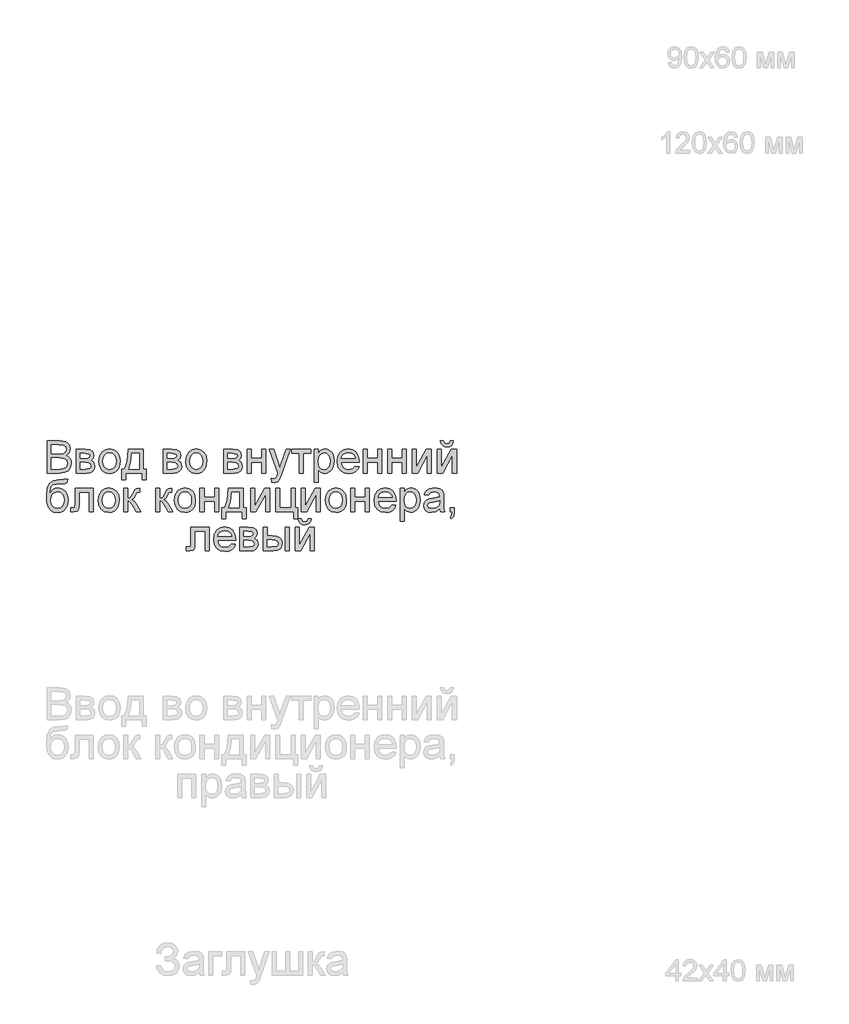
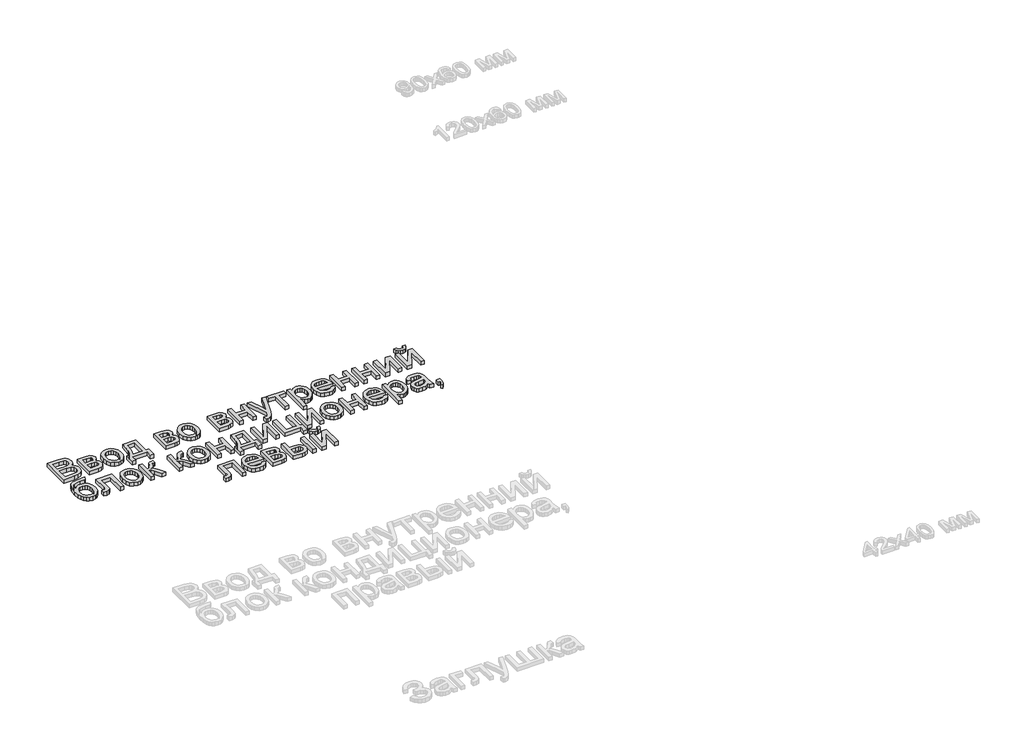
# One storey, part 18 of 21: 1 proxy.
"""IFC4 building model written with IfcOpenShell, lengths in millimetres."""

import ifcopenshell
import ifcopenshell.guid

model = None  # the IFC model being written
_history = None  # IfcOwnerHistory: only IFC2X3 demands one
_inside = {}  # id of a spatial element -> (the spatial element, [elements in it])
_under = {}  # id of a project, library or spatial element -> (it, [spatial elements below it])
_declared = {}  # id of a project -> (the project, [libraries it declares])
_typed = {}  # id of a type object -> (the type object, [elements of that type])
_made_of = {}  # id of a material, layer set ... -> (it, [elements and type objects made of it])


def new_model(schema):
    """Start an empty IFC model of exactly this schema.

    Asked for "IFC4X3", IfcOpenShell would pick the latest addendum, in which some entities
    have other attributes; the version numbers below select the first issue.
    IFC2X3 requires an IfcOwnerHistory on every rooted entity: one is made here for all.
    """
    global model, _history
    if schema == "IFC4X3":
        model = ifcopenshell.file(schema_version=(4, 3, 0, 0))
    else:
        model = ifcopenshell.file(schema=schema)
    _inside.clear()
    _under.clear()
    _declared.clear()
    _typed.clear()
    _made_of.clear()
    _history = None
    if model.schema == "IFC2X3":
        org = make("IfcOrganization", Name="unknown")
        user = make(
            "IfcPersonAndOrganization",
            ThePerson=make("IfcPerson", FamilyName="unknown"),
            TheOrganization=org,
        )
        app = make(
            "IfcApplication",
            ApplicationDeveloper=org,
            Version="unknown",
            ApplicationFullName="unknown",
            ApplicationIdentifier="unknown",
        )
        _history = make(
            "IfcOwnerHistory",
            OwningUser=user,
            OwningApplication=app,
            ChangeAction="ADDED",
            CreationDate=0,
        )
    return model


def make(cls, **values):
    """One entity of the class cls with the attributes given. An attribute that is None is left unset."""
    return model.create_entity(
        cls, **{name: value for name, value in values.items() if value is not None}
    )


def rooted(cls, **values):
    """An entity with a GlobalId (a new one), such as an element, a storey or a relation."""
    return make(cls, GlobalId=ifcopenshell.guid.new(), OwnerHistory=_history, **values)


def si_unit(unit_type, name, prefix=None):
    """IfcSIUnit, for example si_unit("LENGTHUNIT", "METRE", prefix="MILLI")."""
    return make("IfcSIUnit", UnitType=unit_type, Prefix=prefix, Name=name)


def assignment(units):
    """IfcUnitAssignment: the units of a project."""
    return None if units is None else make("IfcUnitAssignment", Units=units)


def point(xyz):
    """IfcCartesianPoint."""
    return None if xyz is None else make("IfcCartesianPoint", Coordinates=xyz)


def direction(xyz):
    """IfcDirection."""
    return None if xyz is None else make("IfcDirection", DirectionRatios=xyz)


def frame(location, z_axis=None, x_axis=None):
    """IfcAxis2Placement3D, a coordinate frame: its origin and axes. An axis left out is left unset."""
    return make(
        "IfcAxis2Placement3D",
        Location=point(location),
        Axis=direction(z_axis),
        RefDirection=direction(x_axis),
    )


def origin():
    """The frame at (0, 0, 0) with its axes left unset."""
    return frame((0.0, 0.0, 0.0))


def origin_with_axes():
    """The frame at (0, 0, 0) with the z axis (0, 0, 1) and the x axis (1, 0, 0) written out."""
    return frame((0.0, 0.0, 0.0), z_axis=(0.0, 0.0, 1.0), x_axis=(1.0, 0.0, 0.0))


def place(relative_to, where):
    """IfcLocalPlacement: puts the frame where relative to a parent placement (None: the world)."""
    return make(
        "IfcLocalPlacement", PlacementRelTo=relative_to, RelativePlacement=where
    )


def context(
    kind, dimensions, precision=None, world=None, true_north=None, identifier=None
):
    """IfcGeometricRepresentationContext, for example the 3D "Model" context."""
    return make(
        "IfcGeometricRepresentationContext",
        ContextIdentifier=identifier,
        ContextType=kind,
        CoordinateSpaceDimension=dimensions,
        Precision=precision,
        WorldCoordinateSystem=world,
        TrueNorth=true_north,
    )


def project(units=None, contexts=None):
    """IfcProject with its units and contexts."""
    return rooted(
        "IfcProject",
        Name="project",
        RepresentationContexts=contexts,
        UnitsInContext=assignment(units),
    )


def spatial(cls, under=None, at=None, **own):
    """A site, building, storey or space (cls), placed at a placement, below another one or the project."""
    s = rooted(cls, ObjectPlacement=at, **own)
    if under is not None:
        _under.setdefault(under.id(), (under, []))[1].append(s)
    return s


def polyline(points):
    """IfcPolyline through the points."""
    return make("IfcPolyline", Points=[point(p) for p in points])


def outline(outer, holes=None, kind="AREA"):
    """IfcArbitraryClosedProfileDef: a profile drawn as a closed curve; with holes, ...WithVoids."""
    if holes is None:
        return make("IfcArbitraryClosedProfileDef", ProfileType=kind, OuterCurve=outer)
    return make(
        "IfcArbitraryProfileDefWithVoids",
        ProfileType=kind,
        OuterCurve=outer,
        InnerCurves=holes,
    )


def extrude(swept, where, along, depth):
    """IfcExtrudedAreaSolid: the profile swept, set in the frame where, extruded along a direction by depth."""
    return make(
        "IfcExtrudedAreaSolid",
        SweptArea=swept,
        Position=where,
        ExtrudedDirection=direction(along),
        Depth=depth,
    )


def shape(context_of_items, identifier, shape_type, items):
    """IfcShapeRepresentation: the items that make up one representation, for example the "Body"."""
    return make(
        "IfcShapeRepresentation",
        ContextOfItems=context_of_items,
        RepresentationIdentifier=identifier,
        RepresentationType=shape_type,
        Items=items,
    )


def made_of(thing, what):
    """Note that an element or type object is made of a material, layer set ...; save() writes the relation."""
    if what is not None:
        _made_of.setdefault(what.id(), (what, []))[1].append(thing)
    return thing


def element(
    cls,
    number,
    at=None,
    inside=None,
    cuts=None,
    type_object=None,
    material=None,
    context=None,
    identifier="Body",
    shape_type=None,
    held_by="IfcProductDefinitionShape",
    body=None,
    shapes=None,
    **own,
):
    """One element of the class cls, such as IfcWall. Its Tag is "e" and its number.

    at: its placement. inside: the storey or other place that contains it. cuts: it is an
    opening in that element (IfcRelVoidsElement). A single representation is given by context,
    identifier, shape_type and body (its items); several are given by shapes. held_by: the class
    of the entity that holds the representations. save() writes the other relations.
    """
    e = rooted(cls, Tag="e%d" % number, ObjectPlacement=at, **own)
    if body is not None:
        shapes = [shape(context, identifier, shape_type, body)]
    if shapes is not None:
        e.Representation = make(held_by, Representations=shapes)
    if inside is not None:
        _inside.setdefault(inside.id(), (inside, []))[1].append(e)
    if cuts is not None:
        rooted(
            "IfcRelVoidsElement", RelatingBuildingElement=cuts, RelatedOpeningElement=e
        )
    if type_object is not None:
        _typed.setdefault(type_object.id(), (type_object, []))[1].append(e)
    return made_of(e, material)


def aggregate(whole, parts):
    """IfcRelAggregates: a whole, such as a stair, and the parts it consists of."""
    return rooted("IfcRelAggregates", RelatingObject=whole, RelatedObjects=parts)


def save(model, path):
    """Write the relations noted so far, then the file.

    IfcRelAggregates (storeys below a building ...), IfcRelContainedInSpatialStructure (elements
    in a storey), IfcRelDefinesByType, IfcRelAssociatesMaterial and IfcRelDeclares: one each for
    every whole, place, type object, material and project.
    """
    for whole, parts in _under.values():
        aggregate(whole, parts)
    for where, things in _inside.values():
        rooted(
            "IfcRelContainedInSpatialStructure",
            RelatedElements=things,
            RelatingStructure=where,
        )
    for kind, things in _typed.values():
        rooted("IfcRelDefinesByType", RelatedObjects=things, RelatingType=kind)
    for what, things in _made_of.values():
        rooted("IfcRelAssociatesMaterial", RelatedObjects=things, RelatingMaterial=what)
    for by, libraries in _declared.values():
        rooted("IfcRelDeclares", RelatingContext=by, RelatedDefinitions=libraries)
    model.write(path)


model = new_model("IFC4")

# Units and contexts
model_context = context("Model", 3, world=origin())
ifc_project = project(units=[si_unit("LENGTHUNIT", "METRE", prefix="MILLI")], contexts=[model_context])

# Site, building, storey
site = spatial("IfcSite", under=ifc_project)
building = spatial("IfcBuilding", under=site)
storey = spatial("IfcBuildingStorey", under=building, Name="Этаж 01", Elevation=0.0)

# Proxy
placement = place(None, origin())
element("IfcBuildingElementProxy", 1, Name="150 мм Arial", ObjectType="150 мм Arial", at=placement, inside=storey, context=model_context, shape_type="SweptSolid", body=[
    extrude(outline(polyline([(28914.2604069, -7684.8743856), (28914.2604069, -7534.1899203), (28971.7603627, -7534.1899203), (28999.9217294, -7538.6228984), (29009.3854938, -7544.2468944), (29016.5499956, -7552.2529263), (29022.5648662, -7571.5299428), (29017.5064888, -7589.1330963), (29002.2209919, -7602.4688186), (29012.8941683, -7608.0422309), (29020.7806386, -7616.5219108), (29025.6504765, -7627.3468386), (29027.2737558, -7639.9559939), (29022.8407777, -7660.2078978), (29011.8595002, -7674.628872), (28995.4703573, -7682.2808175), (28971.3189043, -7684.8743856), (28914.2604069, -7684.8743856)]), holes=[polyline([(28933.095965, -7595.4054843), (28967.4929316, -7595.4054843), (28987.5792885, -7593.7868035), (28999.664212, -7586.8154397), (29003.7293081, -7574.5465752), (28999.9401235, -7562.2593166), (28989.0876047, -7554.9936472), (28964.8809694, -7553.0254785), (28933.095965, -7553.0254785), (28933.095965, -7595.4054843)]), polyline([(28933.095965, -7666.0388274), (28971.7235745, -7666.0388274), (28985.7030903, -7665.3030634), (28997.5304965, -7661.2011792), (29005.366383, -7652.8318638), (29008.4381976, -7640.1399349), (29004.8329541, -7625.4982315), (28993.1527007, -7616.7610341), (28969.8841645, -7614.2410425), (28933.095965, -7614.2410425), (28933.095965, -7666.0388274)])]), origin_with_axes(), (0.0, 0.0, 1.0), 20.0),
    extrude(outline(polyline([(29050.8182035, -7574.2154814), (29092.3152925, -7574.2154814), (29115.0687939, -7576.7354731), (29127.8710874, -7585.9693111), (29133.2237704, -7602.0641484), (29129.9864088, -7615.1423534), (29120.237536, -7624.4681619), (29132.8926766, -7634.6768873), (29137.9326599, -7652.4271936), (29134.7412836, -7666.7837884), (29127.1537175, -7676.8913463), (29115.1423703, -7682.8786257), (29098.679651, -7684.8743856), (29050.8182035, -7684.8743856), (29050.8182035, -7574.2154814)]), holes=[polyline([(29069.6537616, -7616.5954872), (29088.2685906, -7616.5954872), (29103.6276639, -7615.6389941), (29111.0956684, -7611.8130213), (29114.3882122, -7604.8968398), (29112.9442754, -7599.2774423), (29108.6124649, -7595.6630017), (29088.8572018, -7593.0510396), (29069.6537616, -7593.0510396), (29069.6537616, -7616.5954872)]), polyline([(29069.6537616, -7666.0388274), (29092.7567509, -7666.0388274), (29113.247778, -7662.6359189), (29117.487618, -7657.9960073), (29119.0971018, -7650.8820892), (29115.8781343, -7641.813798), (29107.4904248, -7636.5346914), (29090.9173409, -7635.4310454), (29069.6537616, -7635.4310454), (29069.6537616, -7666.0388274)])]), origin_with_axes(), (0.0, 0.0, 1.0), 20.0),
    extrude(outline(polyline([(29156.7682181, -7629.5449335), (29160.8425112, -7602.8642918), (29173.0653905, -7584.1115071), (29188.1669464, -7574.9236542), (29206.2483464, -7571.8610366), (29226.0357992, -7575.5904404), (29241.8409295, -7586.7786515), (29252.2014062, -7604.5427534), (29255.6548984, -7627.9998291), (29254.1281881, -7647.0285253), (29249.5480573, -7661.5138789), (29242.0478631, -7672.3617992), (29231.7609628, -7680.4781957), (29219.542682, -7685.5411717), (29206.2483464, -7687.2288303), (29186.2217703, -7683.5132222), (29170.4350342, -7672.3663977), (29160.1849221, -7654.2298154), (29156.7682181, -7629.5449335)]), holes=[polyline([(29175.6037762, -7629.5081453), (29177.7834771, -7646.5548772), (29184.3225795, -7658.6995816), (29194.1634229, -7665.9698495), (29206.2483464, -7668.3932722), (29218.2780877, -7665.9560539), (29228.1005369, -7658.6443993), (29234.6396394, -7646.3387466), (29236.8193402, -7628.9195341), (29234.6258438, -7612.3694428), (29228.0453546, -7600.3902854), (29218.2091098, -7593.1200174), (29206.2483464, -7590.6965948), (29194.1634229, -7593.1108204), (29184.3225795, -7600.3534972), (29177.7834771, -7612.4706104), (29175.6037762, -7629.5081453)])]), origin_with_axes(), (0.0, 0.0, 1.0), 20.0),
    extrude(outline(polyline([(29293.3260147, -7574.2154814), (29363.9593578, -7574.2154814), (29363.9593578, -7666.0388274), (29378.0860264, -7666.0388274), (29378.0860264, -7715.4821675), (29359.2504682, -7715.4821675), (29359.2504682, -7684.8743856), (29281.5537908, -7684.8743856), (29281.5537908, -7715.4821675), (29262.7182327, -7715.4821675), (29262.7182327, -7666.0388274), (29274.4904565, -7666.0388274), (29283.0483114, -7650.573988), (29289.0401894, -7630.1151506), (29293.3260147, -7574.2154814)]), holes=[polyline([(29309.8071281, -7593.0510396), (29305.3925441, -7635.9644743), (29295.6804595, -7666.0388274), (29345.1237996, -7666.0388274), (29345.1237996, -7593.0510396), (29309.8071281, -7593.0510396)])]), origin_with_axes(), (0.0, 0.0, 1.0), 20.0),
    extrude(outline(polyline([(29458.1371485, -7574.2154814), (29499.6342376, -7574.2154814), (29522.387739, -7576.7354731), (29535.1900324, -7585.9693111), (29540.5427154, -7602.0641484), (29537.3053539, -7615.1423534), (29527.556481, -7624.4681619), (29540.2116217, -7634.6768873), (29545.251605, -7652.4271936), (29542.0602287, -7666.7837884), (29534.4726625, -7676.8913463), (29522.4613154, -7682.8786257), (29505.9985961, -7684.8743856), (29458.1371485, -7684.8743856), (29458.1371485, -7574.2154814)]), holes=[polyline([(29476.9727067, -7616.5954872), (29495.5875356, -7616.5954872), (29510.9466089, -7615.6389941), (29518.4146134, -7611.8130213), (29521.7071573, -7604.8968398), (29520.2632205, -7599.2774423), (29515.93141, -7595.6630017), (29496.1761468, -7593.0510396), (29476.9727067, -7593.0510396), (29476.9727067, -7616.5954872)]), polyline([(29476.9727067, -7666.0388274), (29500.075696, -7666.0388274), (29520.5667231, -7662.6359189), (29524.8065631, -7657.9960073), (29526.4160468, -7650.8820892), (29523.1970794, -7641.813798), (29514.8093699, -7636.5346914), (29498.236286, -7635.4310454), (29476.9727067, -7635.4310454), (29476.9727067, -7666.0388274)])]), origin_with_axes(), (0.0, 0.0, 1.0), 20.0),
    extrude(outline(polyline([(29564.0871631, -7629.5449335), (29568.1614562, -7602.8642918), (29580.3843355, -7584.1115071), (29595.4858914, -7574.9236542), (29613.5672915, -7571.8610366), (29633.3547443, -7575.5904404), (29649.1598745, -7586.7786515), (29659.5203512, -7604.5427534), (29662.9738434, -7627.9998291), (29661.4471332, -7647.0285253), (29656.8670023, -7661.5138789), (29649.3668081, -7672.3617992), (29639.0799079, -7680.4781957), (29626.8616271, -7685.5411717), (29613.5672915, -7687.2288303), (29593.5407154, -7683.5132222), (29577.7539793, -7672.3663977), (29567.5038672, -7654.2298154), (29564.0871631, -7629.5449335)]), holes=[polyline([(29582.9227213, -7629.5081453), (29585.1024221, -7646.5548772), (29591.6415246, -7658.6995816), (29601.4823679, -7665.9698495), (29613.5672915, -7668.3932722), (29625.5970327, -7665.9560539), (29635.419482, -7658.6443993), (29641.9585845, -7646.3387466), (29644.1382853, -7628.9195341), (29641.9447889, -7612.3694428), (29635.3642997, -7600.3902854), (29625.5280549, -7593.1200174), (29613.5672915, -7590.6965948), (29601.4823679, -7593.1108204), (29591.6415246, -7600.3534972), (29585.1024221, -7612.4706104), (29582.9227213, -7629.5081453)])]), origin_with_axes(), (0.0, 0.0, 1.0), 20.0),
    extrude(outline(polyline([(29743.0249656, -7574.2154814), (29784.5220546, -7574.2154814), (29807.275556, -7576.7354731), (29820.0778495, -7585.9693111), (29825.4305325, -7602.0641484), (29822.193171, -7615.1423534), (29812.4442981, -7624.4681619), (29825.0994387, -7634.6768873), (29830.139422, -7652.4271936), (29826.9480457, -7666.7837884), (29819.3604796, -7676.8913463), (29807.3491324, -7682.8786257), (29790.8864132, -7684.8743856), (29743.0249656, -7684.8743856), (29743.0249656, -7574.2154814)]), holes=[polyline([(29761.8605237, -7616.5954872), (29780.4753527, -7616.5954872), (29795.834426, -7615.6389941), (29803.3024305, -7611.8130213), (29806.5949744, -7604.8968398), (29805.1510375, -7599.2774423), (29800.819227, -7595.6630017), (29781.0639639, -7593.0510396), (29761.8605237, -7593.0510396), (29761.8605237, -7616.5954872)]), polyline([(29761.8605237, -7666.0388274), (29784.963513, -7666.0388274), (29805.4545402, -7662.6359189), (29809.6943802, -7657.9960073), (29811.3038639, -7650.8820892), (29808.0848964, -7641.813798), (29799.6971869, -7636.5346914), (29783.1241031, -7635.4310454), (29761.8605237, -7635.4310454), (29761.8605237, -7666.0388274)])]), origin_with_axes(), (0.0, 0.0, 1.0), 20.0),
    extrude(outline(polyline([(29853.6838697, -7574.2154814), (29872.5194279, -7574.2154814), (29872.5194279, -7616.5954872), (29921.962768, -7616.5954872), (29921.962768, -7574.2154814), (29940.7983262, -7574.2154814), (29940.7983262, -7684.8743856), (29921.962768, -7684.8743856), (29921.962768, -7635.4310454), (29872.5194279, -7635.4310454), (29872.5194279, -7684.8743856), (29853.6838697, -7684.8743856), (29853.6838697, -7574.2154814)])), origin_with_axes(), (0.0, 0.0, 1.0), 20.0),
    extrude(outline(polyline([(29969.0516634, -7727.2543914), (29966.6972187, -7709.117809), (29976.2621505, -7710.773278), (29985.201683, -7708.6947447), (29990.6831247, -7702.9006033), (29995.8334727, -7689.0314521), (29997.3050007, -7684.4697154), (29957.2794396, -7574.2154814), (29977.1450673, -7574.2154814), (29998.3718584, -7635.6517746), (30005.7662865, -7660.2262919), (30013.1607146, -7638.5212542), (30034.976117, -7574.2154814), (30054.6945919, -7574.2154814), (30016.177347, -7687.5231359), (30006.1709567, -7712.0976532), (29995.2448615, -7725.3781932), (29980.5663699, -7729.6088362), (29969.0516634, -7727.2543914)])), origin_with_axes(), (0.0, 0.0, 1.0), 20.0),
    extrude(outline(polyline([(30060.8750094, -7574.2154814), (30150.3439107, -7574.2154814), (30150.3439107, -7593.0510396), (30115.0272391, -7593.0510396), (30115.0272391, -7684.8743856), (30096.191681, -7684.8743856), (30096.191681, -7593.0510396), (30060.8750094, -7593.0510396), (30060.8750094, -7574.2154814)])), origin_with_axes(), (0.0, 0.0, 1.0), 20.0),
    extrude(outline(polyline([(30166.825024, -7727.2543914), (30166.825024, -7574.2154814), (30185.6605822, -7574.2154814), (30185.6605822, -7592.6831576), (30198.6836048, -7577.0665669), (30216.2683642, -7571.8610366), (30229.0062783, -7573.6820525), (30240.1439057, -7579.1451001), (30249.2121969, -7587.9190857), (30255.7421023, -7599.6729155), (30261.0028148, -7628.6988049), (30259.5174912, -7644.8074378), (30255.0615206, -7659.2146164), (30247.7774571, -7671.1891753), (30237.807855, -7679.9999491), (30226.1965795, -7685.42161), (30213.9874958, -7687.2288303), (30197.5983529, -7682.3911821), (30185.6605822, -7670.1591057), (30185.6605822, -7727.2543914), (30166.825024, -7727.2543914)]), holes=[polyline([(30185.6605822, -7630.4278503), (30187.6977287, -7647.3136338), (30193.8091684, -7659.1226459), (30202.8268758, -7666.0756156), (30213.5828256, -7668.3932722), (30224.5135194, -7665.9928421), (30233.7611531, -7658.7915521), (30240.0657307, -7646.5502787), (30242.1672566, -7629.0298987), (30240.1163145, -7612.2360856), (30233.9634882, -7600.2615267), (30224.9595763, -7593.0878278), (30214.3553778, -7590.6965948), (30203.7097926, -7593.2395791), (30194.3609914, -7600.868532), (30187.8356845, -7613.3443301), (30185.6605822, -7630.4278503)])]), origin_with_axes(), (0.0, 0.0, 1.0), 20.0),
    extrude(outline(polyline([(30359.6687659, -7651.9121588), (30378.1364421, -7654.2666036), (30371.4823765, -7668.18174), (30360.8643824, -7678.5836034), (30346.5215831, -7685.0675236), (30328.6931019, -7687.2288303), (30306.5925911, -7683.4994266), (30289.5872458, -7672.3112154), (30278.743924, -7654.3907637), (30275.1294834, -7630.4646385), (30278.7807122, -7605.7337713), (30289.7343986, -7587.238504), (30306.5098176, -7575.7054035), (30327.6262441, -7571.8610366), (30348.0850816, -7575.6962064), (30364.4328377, -7587.2017158), (30375.1519994, -7605.6601949), (30378.7250533, -7630.3542739), (30378.6146887, -7635.4310454), (30293.9650416, -7635.4310454), (30297.2253958, -7649.5301229), (30304.7991663, -7659.8951981), (30315.7298601, -7666.2687536), (30329.0609839, -7668.3932722), (30347.5286601, -7664.4569348), (30359.6687659, -7651.9121588)]), holes=[polyline([(30293.9650416, -7616.5954872), (30359.8894951, -7616.5954872), (30357.3419123, -7606.6442793), (30352.3479142, -7599.5257627), (30341.3666366, -7592.9038868), (30327.5526677, -7590.6965948), (30314.8561404, -7592.4578298), (30304.3577079, -7597.741535), (30297.0598489, -7605.9774932), (30293.9650416, -7616.5954872)])]), origin_with_axes(), (0.0, 0.0, 1.0), 20.0),
    extrude(outline(polyline([(30397.5606114, -7574.2154814), (30416.3961696, -7574.2154814), (30416.3961696, -7616.5954872), (30465.8395097, -7616.5954872), (30465.8395097, -7574.2154814), (30484.6750679, -7574.2154814), (30484.6750679, -7684.8743856), (30465.8395097, -7684.8743856), (30465.8395097, -7635.4310454), (30416.3961696, -7635.4310454), (30416.3961696, -7684.8743856), (30397.5606114, -7684.8743856), (30397.5606114, -7574.2154814)])), origin_with_axes(), (0.0, 0.0, 1.0), 20.0),
    extrude(outline(polyline([(30512.9284051, -7574.2154814), (30531.7639633, -7574.2154814), (30531.7639633, -7616.5954872), (30581.2073034, -7616.5954872), (30581.2073034, -7574.2154814), (30600.0428616, -7574.2154814), (30600.0428616, -7684.8743856), (30581.2073034, -7684.8743856), (30581.2073034, -7635.4310454), (30531.7639633, -7635.4310454), (30531.7639633, -7684.8743856), (30512.9284051, -7684.8743856), (30512.9284051, -7574.2154814)])), origin_with_axes(), (0.0, 0.0, 1.0), 20.0),
    extrude(outline(polyline([(30628.2961988, -7574.2154814), (30647.1317569, -7574.2154814), (30647.1317569, -7658.6076111), (30693.4113119, -7574.2154814), (30717.7651, -7574.2154814), (30717.7651, -7684.8743856), (30698.9295419, -7684.8743856), (30698.9295419, -7600.9972906), (30652.9442925, -7684.8743856), (30628.2961988, -7684.8743856), (30628.2961988, -7574.2154814)])), origin_with_axes(), (0.0, 0.0, 1.0), 20.0),
    extrude(outline(polyline([(30746.0184372, -7574.2154814), (30764.8539954, -7574.2154814), (30764.8539954, -7658.6076111), (30811.1335504, -7574.2154814), (30835.4873385, -7574.2154814), (30835.4873385, -7684.8743856), (30816.6517803, -7684.8743856), (30816.6517803, -7600.9972906), (30770.6665309, -7684.8743856), (30746.0184372, -7684.8743856), (30746.0184372, -7574.2154814)])), origin_with_axes(), (0.0, 0.0, 1.0), 20.0),
    extrude(outline(polyline([(30807.2340012, -7534.1899203), (30821.3606699, -7534.1899203), (30818.3210449, -7546.2518512), (30812.2188023, -7555.1408), (30803.3298536, -7560.6176432), (30791.9301102, -7562.4432576), (30779.5600782, -7560.6314387), (30769.9675551, -7555.1959823), (30763.4100586, -7546.3208291), (30760.1451059, -7534.1899203), (30774.2717745, -7534.1899203), (30779.5692752, -7544.8033159), (30790.2378531, -7548.3165889), (30801.9365005, -7544.9136805), (30807.2340012, -7534.1899203)])), origin_with_axes(), (0.0, 0.0, 1.0), 20.0),
    extrude(outline(polyline([(28993.1343066, -7714.7977023), (29009.61542, -7714.7977023), (29004.7593777, -7729.494588), (28995.1576576, -7734.8104829), (28972.0914565, -7735.9877052), (28941.023822, -7740.3287128), (28933.8961083, -7745.9757014), (28929.1044454, -7754.2346522), (28925.0761375, -7778.8459577), (28941.391704, -7760.8197399), (28951.3107223, -7756.3223825), (28962.41616, -7754.8232634), (28982.0150733, -7758.6354406), (28997.9167726, -7770.0719721), (29008.4565917, -7788.0108179), (29011.9698648, -7811.3299379), (29010.2270238, -7829.3101704), (29004.998501, -7843.7403416), (28988.4622053, -7863.2932697), (28977.168228, -7868.4666102), (28962.41616, -7870.1910571), (28945.4154133, -7867.9699695), (28932.6729007, -7861.3067069), (28923.2965084, -7851.180755), (28916.3941224, -7838.5715996), (28912.1450854, -7819.5842901), (28910.7287397, -7790.3238759), (28914.3017936, -7754.1840684), (28925.0209552, -7732.1433384), (28943.1529391, -7720.8999449), (28968.9644595, -7717.1521471), (28989.9337333, -7716.7290828), (28993.1343066, -7714.7977023)]), holes=[polyline([(28993.1343066, -7810.7413267), (28991.0925615, -7795.9202808), (28984.9673263, -7784.0514879), (28975.126483, -7776.2569881), (28961.9379134, -7773.6588216), (28948.1883239, -7776.4041409), (28937.9887955, -7784.6400991), (28931.6704223, -7797.4653852), (28929.5642979, -7813.9786882), (28931.8911515, -7829.9861535), (28938.8717123, -7841.7353848), (28949.2643787, -7848.9504704), (28961.8275488, -7851.3554989), (28974.4550983, -7848.5733913), (28984.4522915, -7840.2270686), (28990.9638029, -7827.2914179), (28993.1343066, -7810.7413267)])]), origin_with_axes(), (0.0, 0.0, 1.0), 20.0),
    extrude(outline(polyline([(29044.9320915, -7757.1777082), (29129.6921032, -7757.1777082), (29129.6921032, -7867.7262477), (29110.8565451, -7867.7262477), (29110.8565451, -7776.0132663), (29063.7676497, -7776.0132663), (29063.7676497, -7828.8043326), (29062.4984568, -7853.1581207), (29055.527093, -7863.4404225), (29039.0459796, -7867.8366123), (29023.7420886, -7866.8801191), (29023.7420886, -7849.0010542), (29032.1665863, -7849.0010542), (29040.6830545, -7847.8422259), (29044.085963, -7844.1634059), (29044.9320915, -7827.7374748), (29044.9320915, -7757.1777082)])), origin_with_axes(), (0.0, 0.0, 1.0), 20.0),
    extrude(outline(polyline([(29153.2365509, -7812.5071602), (29157.310844, -7785.8265185), (29169.5337233, -7767.0737338), (29184.6352792, -7757.885881), (29202.7166793, -7754.8232634), (29222.5041321, -7758.5526671), (29238.3092623, -7769.7408783), (29248.669739, -7787.5049801), (29252.1232312, -7810.9620559), (29250.5965209, -7829.9907521), (29246.0163901, -7844.4761056), (29238.5161959, -7855.324026), (29228.2292956, -7863.4404225), (29216.0110149, -7868.5033984), (29202.7166793, -7870.1910571), (29182.6901032, -7866.4754489), (29166.903367, -7855.3286245), (29156.653255, -7837.1920421), (29153.2365509, -7812.5071602)]), holes=[polyline([(29172.0721091, -7812.470372), (29174.2518099, -7829.517104), (29180.7909124, -7841.6618084), (29190.6317557, -7848.9320763), (29202.7166793, -7851.3554989), (29214.7464205, -7848.9182807), (29224.5688698, -7841.6066261), (29231.1079723, -7829.3009733), (29233.2876731, -7811.8817609), (29231.0941767, -7795.3316696), (29224.5136875, -7783.3525121), (29214.6774426, -7776.0822442), (29202.7166793, -7773.6588216), (29190.6317557, -7776.0730471), (29180.7909124, -7783.3157239), (29174.2518099, -7795.4328371), (29172.0721091, -7812.470372)])]), origin_with_axes(), (0.0, 0.0, 1.0), 20.0),
    extrude(outline(polyline([(29273.3132341, -7757.1777082), (29292.1487923, -7757.1777082), (29292.1487923, -7804.2666036), (29304.7671447, -7800.8820892), (29315.1046288, -7781.1636143), (29323.6946734, -7764.149072), (29331.2730425, -7758.6124479), (29345.0502232, -7757.1777082), (29348.6554668, -7757.1777082), (29348.6554668, -7776.1236309), (29343.5786952, -7776.0132663), (29334.3816453, -7777.9998291), (29327.9069222, -7790.3974523), (29320.310159, -7803.8067511), (29309.6599753, -7810.3734447), (29321.5425637, -7817.7034934), (29333.204423, -7833.1453402), (29353.3643563, -7867.8366123), (29331.9536242, -7867.8366123), (29312.198361, -7833.8811042), (29302.2655472, -7819.5153123), (29292.1487923, -7816.0388274), (29292.1487923, -7867.8366123), (29273.3132341, -7867.8366123), (29273.3132341, -7757.1777082)])), origin_with_axes(), (0.0, 0.0, 1.0), 20.0),
    extrude(outline(polyline([(29423.9976994, -7757.1777082), (29442.8332575, -7757.1777082), (29442.8332575, -7804.2666036), (29455.45161, -7800.8820892), (29465.789094, -7781.1636143), (29474.3791386, -7764.149072), (29481.9575077, -7758.6124479), (29495.7346884, -7757.1777082), (29499.339932, -7757.1777082), (29499.339932, -7776.1236309), (29494.2631605, -7776.0132663), (29485.0661106, -7777.9998291), (29478.5913875, -7790.3974523), (29470.9946243, -7803.8067511), (29460.3444405, -7810.3734447), (29472.2270289, -7817.7034934), (29483.8888882, -7833.1453402), (29504.0488215, -7867.8366123), (29482.6380894, -7867.8366123), (29462.8828263, -7833.8811042), (29452.9500124, -7819.5153123), (29442.8332575, -7816.0388274), (29442.8332575, -7867.8366123), (29423.9976994, -7867.8366123), (29423.9976994, -7757.1777082)])), origin_with_axes(), (0.0, 0.0, 1.0), 20.0),
    extrude(outline(polyline([(29511.1121558, -7812.5071602), (29515.1864489, -7785.8265185), (29527.4093282, -7767.0737338), (29542.5108841, -7757.885881), (29560.5922842, -7754.8232634), (29580.379737, -7758.5526671), (29596.1848672, -7769.7408783), (29606.5453439, -7787.5049801), (29609.9988361, -7810.9620559), (29608.4721259, -7829.9907521), (29603.891995, -7844.4761056), (29596.3918008, -7855.324026), (29586.1049005, -7863.4404225), (29573.8866198, -7868.5033984), (29560.5922842, -7870.1910571), (29540.5657081, -7866.4754489), (29524.778972, -7855.3286245), (29514.5288599, -7837.1920421), (29511.1121558, -7812.5071602)]), holes=[polyline([(29529.947714, -7812.470372), (29532.1274148, -7829.517104), (29538.6665173, -7841.6618084), (29548.5073606, -7848.9320763), (29560.5922842, -7851.3554989), (29572.6220254, -7848.9182807), (29582.4444747, -7841.6066261), (29588.9835772, -7829.3009733), (29591.163278, -7811.8817609), (29588.9697816, -7795.3316696), (29582.3892924, -7783.3525121), (29572.5530476, -7776.0822442), (29560.5922842, -7773.6588216), (29548.5073606, -7776.0730471), (29538.6665173, -7783.3157239), (29532.1274148, -7795.4328371), (29529.947714, -7812.470372)])]), origin_with_axes(), (0.0, 0.0, 1.0), 20.0),
    extrude(outline(polyline([(29631.1888391, -7757.1777082), (29650.0243972, -7757.1777082), (29650.0243972, -7799.557714), (29699.4677374, -7799.557714), (29699.4677374, -7757.1777082), (29718.3032955, -7757.1777082), (29718.3032955, -7867.8366123), (29699.4677374, -7867.8366123), (29699.4677374, -7818.3932722), (29650.0243972, -7818.3932722), (29650.0243972, -7867.8366123), (29631.1888391, -7867.8366123), (29631.1888391, -7757.1777082)])), origin_with_axes(), (0.0, 0.0, 1.0), 20.0),
    extrude(outline(polyline([(29763.0377461, -7757.1777082), (29833.6710892, -7757.1777082), (29833.6710892, -7849.0010542), (29847.7977578, -7849.0010542), (29847.7977578, -7898.4443943), (29828.9621997, -7898.4443943), (29828.9621997, -7867.8366123), (29751.2655223, -7867.8366123), (29751.2655223, -7898.4443943), (29732.4299641, -7898.4443943), (29732.4299641, -7849.0010542), (29744.202188, -7849.0010542), (29752.7600429, -7833.5362148), (29758.7519209, -7813.0773773), (29763.0377461, -7757.1777082)]), holes=[polyline([(29779.5188595, -7776.0132663), (29775.1042756, -7818.9267011), (29765.3921909, -7849.0010542), (29814.8355311, -7849.0010542), (29814.8355311, -7776.0132663), (29779.5188595, -7776.0132663)])]), origin_with_axes(), (0.0, 0.0, 1.0), 20.0),
    extrude(outline(polyline([(29868.9877607, -7757.1777082), (29887.8233189, -7757.1777082), (29887.8233189, -7841.5698379), (29934.1028739, -7757.1777082), (29958.456662, -7757.1777082), (29958.456662, -7867.8366123), (29939.6211038, -7867.8366123), (29939.6211038, -7783.9595174), (29893.6358544, -7867.8366123), (29868.9877607, -7867.8366123), (29868.9877607, -7757.1777082)])), origin_with_axes(), (0.0, 0.0, 1.0), 20.0),
    extrude(outline(polyline([(29986.7099992, -7757.1777082), (30005.5455573, -7757.1777082), (30005.5455573, -7849.0010542), (30059.697787, -7849.0010542), (30059.697787, -7757.1777082), (30078.5333452, -7757.1777082), (30078.5333452, -7849.0010542), (30090.305569, -7849.0010542), (30090.305569, -7898.4443943), (30071.4700109, -7898.4443943), (30071.4700109, -7867.8366123), (29986.7099992, -7867.8366123), (29986.7099992, -7757.1777082)])), origin_with_axes(), (0.0, 0.0, 1.0), 20.0),
    extrude(outline(polyline([(30106.7866824, -7757.1777082), (30125.6222406, -7757.1777082), (30125.6222406, -7841.5698379), (30171.9017956, -7757.1777082), (30196.2555836, -7757.1777082), (30196.2555836, -7867.8366123), (30177.4200255, -7867.8366123), (30177.4200255, -7783.9595174), (30131.4347761, -7867.8366123), (30106.7866824, -7867.8366123), (30106.7866824, -7757.1777082)])), origin_with_axes(), (0.0, 0.0, 1.0), 20.0),
    extrude(outline(polyline([(30219.8000313, -7812.5071602), (30223.8743244, -7785.8265185), (30236.0972037, -7767.0737338), (30251.1987596, -7757.885881), (30269.2801597, -7754.8232634), (30289.0676125, -7758.5526671), (30304.8727427, -7769.7408783), (30315.2332194, -7787.5049801), (30318.6867116, -7810.9620559), (30317.1600014, -7829.9907521), (30312.5798705, -7844.4761056), (30305.0796763, -7855.324026), (30294.7927761, -7863.4404225), (30282.5744953, -7868.5033984), (30269.2801597, -7870.1910571), (30249.2535836, -7866.4754489), (30233.4668475, -7855.3286245), (30223.2167354, -7837.1920421), (30219.8000313, -7812.5071602)]), holes=[polyline([(30238.6355895, -7812.470372), (30240.8152903, -7829.517104), (30247.3543928, -7841.6618084), (30257.1952362, -7848.9320763), (30269.2801597, -7851.3554989), (30281.3099009, -7848.9182807), (30291.1323502, -7841.6066261), (30297.6714527, -7829.3009733), (30299.8511535, -7811.8817609), (30297.6576571, -7795.3316696), (30291.0771679, -7783.3525121), (30281.2409231, -7776.0822442), (30269.2801597, -7773.6588216), (30257.1952362, -7776.0730471), (30247.3543928, -7783.3157239), (30240.8152903, -7795.4328371), (30238.6355895, -7812.470372)])]), origin_with_axes(), (0.0, 0.0, 1.0), 20.0),
    extrude(outline(polyline([(30339.8767146, -7757.1777082), (30358.7122727, -7757.1777082), (30358.7122727, -7799.557714), (30408.1556129, -7799.557714), (30408.1556129, -7757.1777082), (30426.991171, -7757.1777082), (30426.991171, -7867.8366123), (30408.1556129, -7867.8366123), (30408.1556129, -7818.3932722), (30358.7122727, -7818.3932722), (30358.7122727, -7867.8366123), (30339.8767146, -7867.8366123), (30339.8767146, -7757.1777082)])), origin_with_axes(), (0.0, 0.0, 1.0), 20.0),
    extrude(outline(polyline([(30532.7204564, -7834.8743856), (30551.1881326, -7837.2288303), (30544.534067, -7851.1439668), (30533.9160729, -7861.5458302), (30519.5732736, -7868.0297504), (30501.7447924, -7870.1910571), (30479.6442816, -7866.4616534), (30462.6389364, -7855.2734422), (30451.7956145, -7837.3529905), (30448.1811739, -7813.4268652), (30451.8324027, -7788.6959981), (30462.7860892, -7770.2007308), (30479.5615081, -7758.6676302), (30500.6779347, -7754.8232634), (30521.1367721, -7758.6584332), (30537.4845283, -7770.1639426), (30548.2036899, -7788.6224217), (30551.7767438, -7813.3165006), (30551.6663792, -7818.3932722), (30467.0167321, -7818.3932722), (30470.2770863, -7832.4923496), (30477.8508569, -7842.8574248), (30488.7815506, -7849.2309804), (30502.1126744, -7851.3554989), (30520.5803506, -7847.4191616), (30532.7204564, -7834.8743856)]), holes=[polyline([(30467.0167321, -7799.557714), (30532.9411856, -7799.557714), (30530.3936028, -7789.606506), (30525.3996047, -7782.4879894), (30514.4183272, -7775.8661135), (30500.6043583, -7773.6588216), (30487.9078309, -7775.4200566), (30477.4093985, -7780.7037618), (30470.1115394, -7788.9397199), (30467.0167321, -7799.557714)])]), origin_with_axes(), (0.0, 0.0, 1.0), 20.0),
    extrude(outline(polyline([(30570.6123019, -7910.2166182), (30570.6123019, -7757.1777082), (30589.4478601, -7757.1777082), (30589.4478601, -7775.6453843), (30602.4708827, -7760.0287936), (30620.0556421, -7754.8232634), (30632.7935562, -7756.6442793), (30643.9311836, -7762.1073269), (30652.9994748, -7770.8813125), (30659.5293802, -7782.6351422), (30664.7900927, -7811.6610317), (30663.3047692, -7827.7696645), (30658.8487985, -7842.1768432), (30651.564735, -7854.1514021), (30641.5951329, -7862.9621759), (30629.9838574, -7868.3838368), (30617.7747737, -7870.1910571), (30601.3856308, -7865.3534089), (30589.4478601, -7853.1213325), (30589.4478601, -7910.2166182), (30570.6123019, -7910.2166182)]), holes=[polyline([(30589.4478601, -7813.390077), (30591.4850066, -7830.2758606), (30597.5964463, -7842.0848727), (30606.6141537, -7849.0378424), (30617.3701035, -7851.3554989), (30628.3007973, -7848.9550689), (30637.548431, -7841.7537789), (30643.8530087, -7829.5125055), (30645.9545346, -7811.9921255), (30643.9035924, -7795.1983124), (30637.7507661, -7783.2237534), (30628.7468542, -7776.0500545), (30618.1426557, -7773.6588216), (30607.4970705, -7776.2018058), (30598.1482693, -7783.8307587), (30591.6229624, -7796.3065569), (30589.4478601, -7813.390077)])]), origin_with_axes(), (0.0, 0.0, 1.0), 20.0),
    extrude(outline(polyline([(30756.6134387, -7853.7099437), (30738.3480976, -7866.4754489), (30718.1697702, -7870.1910571), (30702.4290193, -7867.956174), (30690.8177439, -7861.2515246), (30683.6578405, -7851.0703904), (30681.2712061, -7838.4060527), (30684.8764496, -7823.5068319), (30694.349411, -7812.6911012), (30707.5379805, -7806.5106837), (30723.8351529, -7803.6779924), (30756.5030741, -7797.2032692), (30756.6134387, -7793.0094145), (30755.3166547, -7784.6033109), (30751.4263026, -7779.1034751), (30742.7258934, -7775.0199849), (30730.6041816, -7773.6588216), (30711.5478943, -7777.2824592), (30702.461209, -7790.1399349), (30683.6256509, -7787.7854902), (30691.7742371, -7769.3913904), (30708.181774, -7758.6124479), (30733.0322028, -7754.8232634), (30755.8592806, -7758.1709896), (30768.7535445, -7766.5770931), (30774.5292919, -7779.3609925), (30775.4489969, -7795.8421059), (30775.4489969, -7819.276189), (30776.40549, -7851.9992924), (30780.1578864, -7867.8366123), (30761.3223282, -7867.8366123), (30756.6134387, -7853.7099437)]), holes=[polyline([(30756.6134387, -7816.0388274), (30726.2263859, -7821.8145747), (30710.021184, -7824.8679953), (30702.6819382, -7829.8344022), (30700.1067642, -7837.0816775), (30705.7169647, -7847.2720088), (30722.179684, -7851.3554989), (30741.2359713, -7846.8489445), (30753.5232299, -7835.9412433), (30756.5030741, -7821.3731163), (30756.6134387, -7816.0388274)])]), origin_with_axes(), (0.0, 0.0, 1.0), 20.0),
    extrude(outline(polyline([(30806.0567789, -7867.8366123), (30806.0567789, -7849.0010542), (30824.892337, -7849.0010542), (30824.892337, -7867.8366123), (30821.5078227, -7887.0952348), (30810.7656684, -7898.4443943), (30806.0567789, -7891.38106), (30812.9729604, -7883.2508679), (30815.4377697, -7867.8366123), (30806.0567789, -7867.8366123)])), origin_with_axes(), (0.0, 0.0, 1.0), 20.0),
    extrude(outline(polyline([(29588.8088332, -7940.1399349), (29673.5688449, -7940.1399349), (29673.5688449, -8050.6884745), (29654.7332867, -8050.6884745), (29654.7332867, -7958.9754931), (29607.6443914, -7958.9754931), (29607.6443914, -8011.7665594), (29606.3751985, -8036.1203475), (29599.4038347, -8046.4026492), (29582.9227213, -8050.7988391), (29567.6188303, -8049.8423459), (29567.6188303, -8031.9632809), (29576.043328, -8031.9632809), (29584.5597962, -8030.8044526), (29587.9627046, -8027.1256327), (29588.8088332, -8010.6997016), (29588.8088332, -7940.1399349)])), origin_with_axes(), (0.0, 0.0, 1.0), 20.0),
    extrude(outline(polyline([(29779.2981303, -8017.8366123), (29797.7658065, -8020.1910571), (29791.1117409, -8034.1061936), (29780.4937468, -8044.508057), (29766.1509475, -8050.9919771), (29748.3224663, -8053.1532839), (29726.2219555, -8049.4238801), (29709.2166102, -8038.235669), (29698.3732884, -8020.3152173), (29694.7588478, -7996.389092), (29698.4100766, -7971.6582249), (29709.363763, -7953.1629576), (29726.139182, -7941.629857), (29747.2556085, -7937.7854902), (29767.714446, -7941.62066), (29784.0622022, -7953.1261694), (29794.7813638, -7971.5846485), (29798.3544177, -7996.2787274), (29798.2440531, -8001.3554989), (29713.594406, -8001.3554989), (29716.8547602, -8015.4545764), (29724.4285307, -8025.8196516), (29735.3592245, -8032.1932072), (29748.6903483, -8034.3177257), (29767.1580245, -8030.3813884), (29779.2981303, -8017.8366123)]), holes=[polyline([(29713.594406, -7982.5199408), (29779.5188595, -7982.5199408), (29776.9712767, -7972.5687328), (29771.9772786, -7965.4502162), (29760.9960011, -7958.8283403), (29747.1820321, -7956.6210483), (29734.4855048, -7958.3822834), (29723.9870723, -7963.6659885), (29716.6892133, -7971.9019467), (29713.594406, -7982.5199408)])]), origin_with_axes(), (0.0, 0.0, 1.0), 20.0),
    extrude(outline(polyline([(29817.1899758, -7940.1399349), (29858.6870649, -7940.1399349), (29881.4405663, -7942.6599266), (29894.2428597, -7951.8937647), (29899.5955427, -7967.988602), (29896.3581812, -7981.0668069), (29886.6093083, -7990.3926155), (29899.2644489, -8000.6013408), (29904.3044323, -8018.3516471), (29901.113056, -8032.708242), (29893.5254898, -8042.8157998), (29881.5141427, -8048.8030793), (29865.0514234, -8050.7988391), (29817.1899758, -8050.7988391), (29817.1899758, -7940.1399349)]), holes=[polyline([(29836.025534, -7982.5199408), (29854.6403629, -7982.5199408), (29869.9994362, -7981.5634476), (29877.4674407, -7977.7374748), (29880.7599846, -7970.8212933), (29879.3160478, -7965.2018959), (29874.9842373, -7961.5874553), (29855.2289741, -7958.9754931), (29836.025534, -7958.9754931), (29836.025534, -7982.5199408)]), polyline([(29836.025534, -8031.9632809), (29859.1285233, -8031.9632809), (29879.6195504, -8028.5603725), (29883.8593904, -8023.9204608), (29885.4688741, -8016.8065427), (29882.2499067, -8007.7382516), (29873.8621972, -8002.4591449), (29857.2891133, -8001.3554989), (29836.025534, -8001.3554989), (29836.025534, -8031.9632809)])]), origin_with_axes(), (0.0, 0.0, 1.0), 20.0),
    extrude(outline(polyline([(30031.4444498, -7940.1399349), (30050.280008, -7940.1399349), (30050.280008, -8050.7988391), (30031.4444498, -8050.7988391), (30031.4444498, -7940.1399349)])), origin_with_axes(), (0.0, 0.0, 1.0), 20.0),
    extrude(outline(polyline([(29927.84888, -7940.1399349), (29946.6844381, -7940.1399349), (29946.6844381, -7980.165496), (29969.9713684, -7980.165496), (29990.0991121, -7982.5245393), (30005.0121285, -7989.6016692), (30014.241368, -8000.8266686), (30017.3177812, -8015.6293203), (30014.7380087, -8029.1075969), (30006.9986912, -8040.4797491), (29993.593991, -8048.2190666), (29974.0180704, -8050.7988391), (29927.84888, -8050.7988391), (29927.84888, -7940.1399349)]), holes=[polyline([(29946.6844381, -8031.9632809), (29966.0350311, -8031.9632809), (29991.0142185, -8028.0085495), (29996.6152219, -8022.9455735), (29998.482223, -8015.6661085), (29992.945599, -8004.0778257), (29984.0658474, -8000.270247), (29968.4998404, -7999.0010542), (29946.6844381, -7999.0010542), (29946.6844381, -8031.9632809)])]), origin_with_axes(), (0.0, 0.0, 1.0), 20.0),
    extrude(outline(polyline([(30078.5333452, -7940.1399349), (30097.3689033, -7940.1399349), (30097.3689033, -8024.5320646), (30143.6484583, -7940.1399349), (30168.0022464, -7940.1399349), (30168.0022464, -8050.7988391), (30149.1666883, -8050.7988391), (30149.1666883, -7966.9217442), (30103.1814389, -8050.7988391), (30078.5333452, -8050.7988391), (30078.5333452, -7940.1399349)])), origin_with_axes(), (0.0, 0.0, 1.0), 20.0),
    extrude(outline(polyline([(30139.7489092, -7900.1143739), (30153.8755778, -7900.1143739), (30150.8359528, -7912.1763048), (30144.7337102, -7921.0652535), (30135.8447615, -7926.5420967), (30124.4450182, -7928.3677111), (30112.0749861, -7926.5558923), (30102.4824631, -7921.1204358), (30095.9249665, -7912.2452827), (30092.6600138, -7900.1143739), (30106.7866824, -7900.1143739), (30112.0841832, -7910.7277694), (30122.752761, -7914.2410425), (30134.4514085, -7910.838134), (30139.7489092, -7900.1143739)])), origin_with_axes(), (0.0, 0.0, 1.0), 20.0),
])

save(model, "model.ifc")
